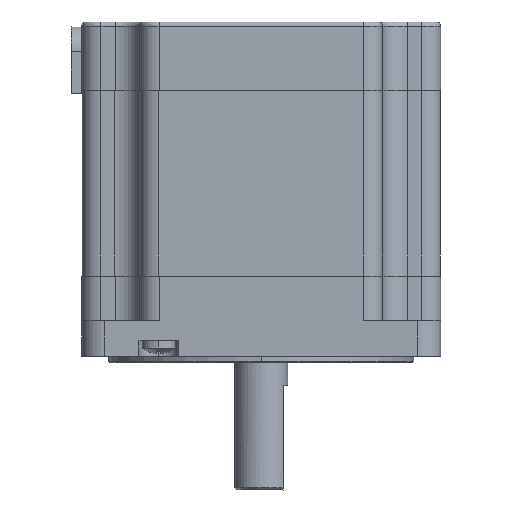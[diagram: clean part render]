
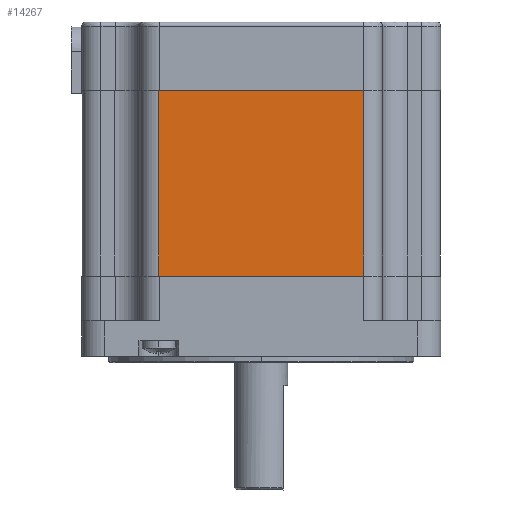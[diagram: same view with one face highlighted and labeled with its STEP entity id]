
A CAD part, front view. The second image highlights one B-rep face of the part: STEP entity #14267.
In plain terms, the highlighted planar face has unit normal (0, -1, 0).
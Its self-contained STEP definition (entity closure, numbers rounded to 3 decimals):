
#481 = VECTOR ( 'NONE', #42760, 1000. ) ;
#1260 = AXIS2_PLACEMENT_3D ( 'NONE', #14289, #9276, #4259 ) ;
#1559 = CARTESIAN_POINT ( 'NONE',  ( -24.5, -42.87, 44.4 ) ) ;
#2754 = ORIENTED_EDGE ( 'NONE', *, *, #3780, .F. ) ;
#3770 = LINE ( 'NONE', #47801, #481 ) ;
#3780 = EDGE_CURVE ( 'NONE', #12257, #42042, #3770, .T. ) ;
#4259 = DIRECTION ( 'NONE',  ( -1., 0., 0. ) ) ;
#5099 = CARTESIAN_POINT ( 'NONE',  ( 24.5, -42.87, 0. ) ) ;
#5172 = CARTESIAN_POINT ( 'NONE',  ( -24.5, -42.87, 0. ) ) ;
#6964 = DIRECTION ( 'NONE',  ( 1., 0., 0. ) ) ;
#9276 = DIRECTION ( 'NONE',  ( 0., 1., 0. ) ) ;
#11996 = CARTESIAN_POINT ( 'NONE',  ( -24.5, -42.87, 0. ) ) ;
#12178 = ORIENTED_EDGE ( 'NONE', *, *, #45915, .T. ) ;
#12257 = VERTEX_POINT ( 'NONE', #1559 ) ;
#13287 = DIRECTION ( 'NONE',  ( 0., 0., -1. ) ) ;
#13296 = ORIENTED_EDGE ( 'NONE', *, *, #22057, .F. ) ;
#14267 = ADVANCED_FACE ( 'NONE', ( #39244 ), #19332, .F. ) ;
#14289 = CARTESIAN_POINT ( 'NONE',  ( -24.5, -42.87, 44.4 ) ) ;
#14563 = ORIENTED_EDGE ( 'NONE', *, *, #41053, .T. ) ;
#15267 = DIRECTION ( 'NONE',  ( 0., 0., -1. ) ) ;
#17792 = VERTEX_POINT ( 'NONE', #5172 ) ;
#18331 = CARTESIAN_POINT ( 'NONE',  ( 24.5, -42.87, 44.4 ) ) ;
#19332 = PLANE ( 'NONE',  #1260 ) ;
#20282 = CARTESIAN_POINT ( 'NONE',  ( -24.5, -42.87, 44.4 ) ) ;
#22021 = LINE ( 'NONE', #11996, #25380 ) ;
#22057 = EDGE_CURVE ( 'NONE', #42042, #28370, #23332, .T. ) ;
#23332 = LINE ( 'NONE', #18331, #37557 ) ;
#25380 = VECTOR ( 'NONE', #6964, 1000. ) ;
#28370 = VERTEX_POINT ( 'NONE', #5099 ) ;
#35415 = CARTESIAN_POINT ( 'NONE',  ( 24.5, -42.87, 44.4 ) ) ;
#37557 = VECTOR ( 'NONE', #13287, 1000. ) ;
#39244 = FACE_OUTER_BOUND ( 'NONE', #42154, .T. ) ;
#40373 = LINE ( 'NONE', #20282, #47754 ) ;
#41053 = EDGE_CURVE ( 'NONE', #12257, #17792, #40373, .T. ) ;
#42042 = VERTEX_POINT ( 'NONE', #35415 ) ;
#42154 = EDGE_LOOP ( 'NONE', ( #12178, #13296, #2754, #14563 ) ) ;
#42760 = DIRECTION ( 'NONE',  ( 1., 0., 0. ) ) ;
#45915 = EDGE_CURVE ( 'NONE', #17792, #28370, #22021, .T. ) ;
#47754 = VECTOR ( 'NONE', #15267, 1000. ) ;
#47801 = CARTESIAN_POINT ( 'NONE',  ( -24.5, -42.87, 44.4 ) ) ;
